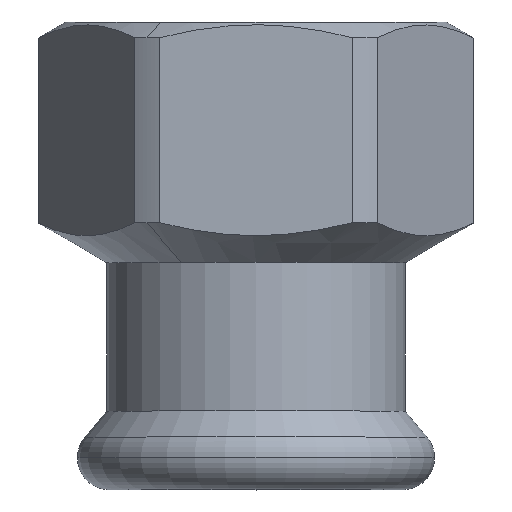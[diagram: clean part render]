
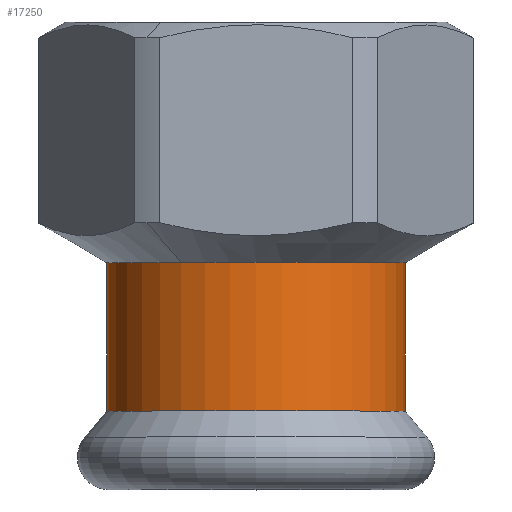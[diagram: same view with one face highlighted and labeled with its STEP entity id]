
A CAD part, top view. The second image highlights one B-rep face of the part: STEP entity #17250.
In plain terms, the highlighted cylindrical face has radius 15.65 mm (diameter 31.3 mm), a partial arc.
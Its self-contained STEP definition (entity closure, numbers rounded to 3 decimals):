
#8450=CARTESIAN_POINT('',(57.385,160.195,
0.));
#8460=DIRECTION('',(1.,0.,0.));
#8470=DIRECTION('',(0.,1.,0.));
#8480=AXIS2_PLACEMENT_3D('',#8450,#8460,#8470);
#8490=CYLINDRICAL_SURFACE('',#8480,15.65);
#8500=CARTESIAN_POINT('',(65.146,160.195,
0.));
#8510=DIRECTION('',(1.,0.,0.));
#8520=DIRECTION('',(0.,-0.5,-0.866));
#8530=AXIS2_PLACEMENT_3D('',#8500,#8510,#8520);
#8540=CIRCLE('',#8530,15.65);
#8570=CARTESIAN_POINT('',(65.146,175.845,
0.));
#8580=VERTEX_POINT('',#8570);
#8610=CARTESIAN_POINT('',(57.385,175.845,
0.));
#8620=DIRECTION('',(1.,0.,0.));
#8630=VECTOR('',#8620,1.);
#8640=LINE('',#8610,#8630);
#8650=CARTESIAN_POINT('',(49.579,175.845,
0.));
#8660=VERTEX_POINT('',#8650);
#8670=EDGE_CURVE('',#8660,#8580,#8640,.T.);
#8690=CARTESIAN_POINT('',(49.579,160.195,
0.));
#8700=DIRECTION('',(-1.,0.,0.));
#8710=DIRECTION('',(0.,1.,0.));
#8720=AXIS2_PLACEMENT_3D('',#8690,#8700,#8710);
#8730=CIRCLE('',#8720,15.65);
#8740=CARTESIAN_POINT('',(49.579,144.545,
0.));
#8750=VERTEX_POINT('',#8740);
#8780=CARTESIAN_POINT('',(57.385,144.545,
0.));
#8790=DIRECTION('',(1.,0.,0.));
#8800=VECTOR('',#8790,1.);
#8810=LINE('',#8780,#8800);
#8820=CARTESIAN_POINT('',(65.146,144.545,
0.));
#8830=VERTEX_POINT('',#8820);
#8840=EDGE_CURVE('',#8750,#8830,#8810,.T.);
#15470=EDGE_CURVE('',#8750,#8660,#8730,.T.);
#15760=CARTESIAN_POINT('',(65.146,168.02,
13.553));
#15770=VERTEX_POINT('',#15760);
#15780=EDGE_CURVE('',#15770,#8830,#8540,.T.);
#17000=EDGE_CURVE('',#8580,#15770,#8540,.T.);
#17180=ORIENTED_EDGE('',*,*,#8670,.F.);
#17190=ORIENTED_EDGE('',*,*,#17000,.F.);
#17200=ORIENTED_EDGE('',*,*,#15780,.F.);
#17210=ORIENTED_EDGE('',*,*,#8840,.T.);
#17220=ORIENTED_EDGE('',*,*,#15470,.F.);
#17230=EDGE_LOOP('',(#17220,#17210,#17200,#17190,#17180));
#17240=FACE_OUTER_BOUND('',#17230,.T.);
#17250=ADVANCED_FACE('',(#17240),#8490,.T.);
